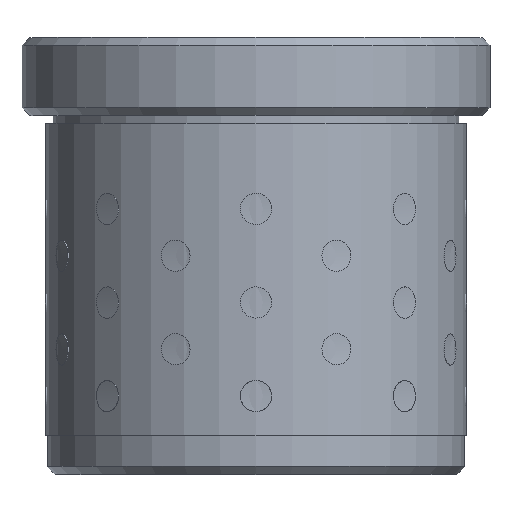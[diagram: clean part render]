
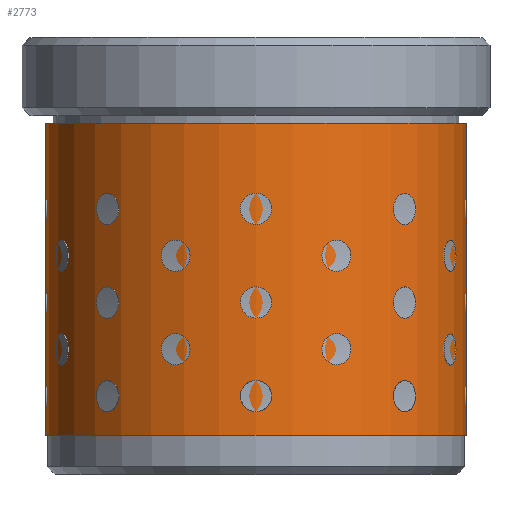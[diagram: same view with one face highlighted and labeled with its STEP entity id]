
A CAD part, top view. The second image highlights one B-rep face of the part: STEP entity #2773.
In plain terms, the highlighted cylindrical face has radius 27 mm (diameter 54 mm), a full revolution.
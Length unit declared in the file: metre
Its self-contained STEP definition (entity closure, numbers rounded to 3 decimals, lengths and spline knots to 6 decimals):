
#2773 = ADVANCED_FACE( '', ( #2974, #2975 ), #2976, .T. );
#2974 = FACE_OUTER_BOUND( '', #3411, .T. );
#2975 = FACE_OUTER_BOUND( '', #3412, .T. );
#2976 = CYLINDRICAL_SURFACE( '', #3413, 0.027 );
#3411 = EDGE_LOOP( '', ( #3864 ) );
#3412 = EDGE_LOOP( '', ( #3865 ) );
#3413 = AXIS2_PLACEMENT_3D( '', #3866, #3867, #3868 );
#3864 = ORIENTED_EDGE( '', *, *, #4636, .T. );
#3865 = ORIENTED_EDGE( '', *, *, #4635, .F. );
#3866 = CARTESIAN_POINT( '', ( 0., 0., 0. ) );
#3867 = DIRECTION( '', ( 0., 1., 0. ) );
#3868 = DIRECTION( '', ( 0., 0., -1. ) );
#4635 = EDGE_CURVE( '', #4770, #4770, #4771, .T. );
#4636 = EDGE_CURVE( '', #4772, #4772, #4773, .T. );
#4770 = VERTEX_POINT( '', #5024 );
#4771 = CIRCLE( '', #5025, 0.027 );
#4772 = VERTEX_POINT( '', #5026 );
#4773 = CIRCLE( '', #5027, 0.027 );
#5024 = CARTESIAN_POINT( '', ( 0., 0.005, -0.027 ) );
#5025 = AXIS2_PLACEMENT_3D( '', #11334, #11335, #11336 );
#5026 = CARTESIAN_POINT( '', ( 0., 0.045, -0.027 ) );
#5027 = AXIS2_PLACEMENT_3D( '', #11337, #11338, #11339 );
#11334 = CARTESIAN_POINT( '', ( 0., 0.005, 0. ) );
#11335 = DIRECTION( '', ( 0., -1., 0. ) );
#11336 = DIRECTION( '', ( 0., 0., -1. ) );
#11337 = CARTESIAN_POINT( '', ( 0., 0.045, 0. ) );
#11338 = DIRECTION( '', ( 0., -1., 0. ) );
#11339 = DIRECTION( '', ( 0., 0., -1. ) );
